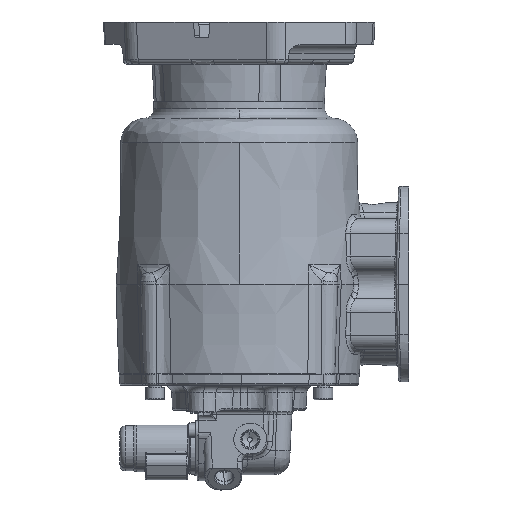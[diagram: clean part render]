
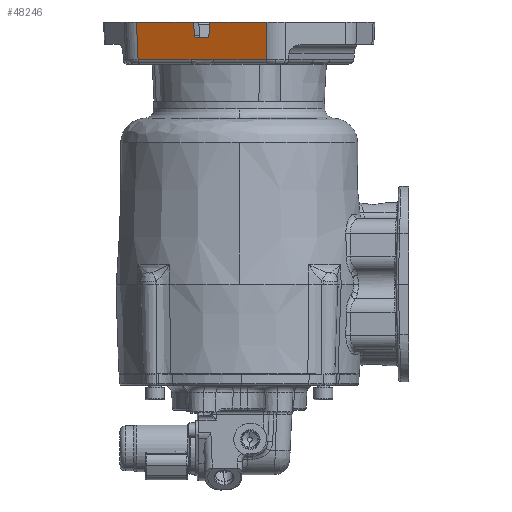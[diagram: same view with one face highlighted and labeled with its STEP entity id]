
A CAD part, left-side view. The second image highlights one B-rep face of the part: STEP entity #48246.
In plain terms, the highlighted planar face has unit normal (-0.913, 0.404, -0.052) as drawn and (-0.999, 0, -0.052) by its records, which use the part's own axes.
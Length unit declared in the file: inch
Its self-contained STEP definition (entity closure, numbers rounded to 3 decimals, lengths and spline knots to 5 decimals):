
#184 = LINE ( 'NONE', #104097, #142238 ) ;
#1432 = ORIENTED_EDGE ( 'NONE', *, *, #33499, .F. ) ;
#2293 = EDGE_CURVE ( 'NONE', #66872, #52426, #93080, .T. ) ;
#5140 = EDGE_CURVE ( 'NONE', #67552, #62731, #53598, .T. ) ;
#7646 = DIRECTION ( 'NONE',  ( 0.052, -0.087, -0.995 ) ) ;
#7977 = CARTESIAN_POINT ( 'NONE',  ( -2.2757, 1.75285, -0.94078 ) ) ;
#8222 = EDGE_CURVE ( 'NONE', #52426, #105072, #130232, .T. ) ;
#8359 = CARTESIAN_POINT ( 'NONE',  ( -2.30691, 0.19479, -0.34523 ) ) ;
#11356 = VECTOR ( 'NONE', #37692, 39.37008 ) ;
#12837 = CARTESIAN_POINT ( 'NONE',  ( -2.30404, -0.16778, -0.4 ) ) ;
#13701 = CARTESIAN_POINT ( 'NONE',  ( -2.30404, 0.13502, -0.4 ) ) ;
#16234 = VECTOR ( 'NONE', #117819, 39.37008 ) ;
#16803 = ORIENTED_EDGE ( 'NONE', *, *, #77254, .F. ) ;
#17019 = DIRECTION ( 'NONE',  ( 0.052, -0.024, -0.998 ) ) ;
#17689 = EDGE_CURVE ( 'NONE', #140938, #65991, #49763, .T. ) ;
#19632 = LINE ( 'NONE', #77173, #42349 ) ;
#19688 = VECTOR ( 'NONE', #7646, 39.37008 ) ;
#21087 = CARTESIAN_POINT ( 'NONE',  ( -2.33319, 0.23867, 0.15634 ) ) ;
#28225 = LINE ( 'NONE', #73818, #64044 ) ;
#28406 = AXIS2_PLACEMENT_3D ( 'NONE', #141679, #105063, #83343 ) ;
#31538 = LINE ( 'NONE', #21087, #19688 ) ;
#32300 = DIRECTION ( 'NONE',  ( 0., -1., 0. ) ) ;
#33101 = ORIENTED_EDGE ( 'NONE', *, *, #66420, .T. ) ;
#33499 = EDGE_CURVE ( 'NONE', #65991, #96967, #19632, .T. ) ;
#36112 = CARTESIAN_POINT ( 'NONE',  ( -2.32476, 1.77524, -0.0045 ) ) ;
#37094 = CARTESIAN_POINT ( 'NONE',  ( -2.2757, 0.25634, -0.94078 ) ) ;
#37692 = DIRECTION ( 'NONE',  ( 0., -1., 0. ) ) ;
#38320 = CARTESIAN_POINT ( 'NONE',  ( -2.2757, -0.30761, -0.94078 ) ) ;
#39852 =( BOUNDED_CURVE ( )  B_SPLINE_CURVE ( 3, ( #101366, #146970, #114023, #90128 ),
 .UNSPECIFIED., .F., .F. ) 
 B_SPLINE_CURVE_WITH_KNOTS ( ( 4, 4 ),
 ( 3.14159, 4.62512 ),
 .UNSPECIFIED. ) 
 CURVE ( )  GEOMETRIC_REPRESENTATION_ITEM ( )  RATIONAL_B_SPLINE_CURVE ( ( 1., 0.825, 0.825, 1. ) ) 
 REPRESENTATION_ITEM ( '' )  );
#41491 = VERTEX_POINT ( 'NONE', #57246 ) ;
#42349 = VECTOR ( 'NONE', #32300, 39.37008 ) ;
#44381 = EDGE_LOOP ( 'NONE', ( #124987, #126689, #131167, #143305, #59131, #33101, #1432, #66853, #62359, #62796, #76706, #16803 ) ) ;
#45090 = EDGE_CURVE ( 'NONE', #67552, #66872, #28225, .T. ) ;
#47946 = CARTESIAN_POINT ( 'NONE',  ( -2.2757, -1.75013, -0.94078 ) ) ;
#48246 = ADVANCED_FACE ( 'NONE', ( #50427 ), #96056, .T. ) ;
#48314 = CARTESIAN_POINT ( 'NONE',  ( -2.2757, -0.25634, -0.94078 ) ) ;
#49428 = CARTESIAN_POINT ( 'NONE',  ( -2.30691, -0.19479, -0.34523 ) ) ;
#49763 = LINE ( 'NONE', #81936, #16234 ) ;
#50391 = CARTESIAN_POINT ( 'NONE',  ( -2.2757, -1.75013, -0.94078 ) ) ;
#50427 = FACE_OUTER_BOUND ( 'NONE', #44381, .T. ) ;
#52426 = VERTEX_POINT ( 'NONE', #140736 ) ;
#53598 = LINE ( 'NONE', #98468, #62839 ) ;
#57246 = CARTESIAN_POINT ( 'NONE',  ( -2.2757, -1.75285, -0.94078 ) ) ;
#58436 = CARTESIAN_POINT ( 'NONE',  ( -2.30404, -0.13502, -0.4 ) ) ;
#59131 = ORIENTED_EDGE ( 'NONE', *, *, #88011, .T. ) ;
#59153 = LINE ( 'NONE', #47946, #106147 ) ;
#60266 = CARTESIAN_POINT ( 'NONE',  ( -2.2757, 0.30761, -0.94078 ) ) ;
#61962 = LINE ( 'NONE', #116597, #136771 ) ;
#62359 = ORIENTED_EDGE ( 'NONE', *, *, #70953, .T. ) ;
#62731 = VERTEX_POINT ( 'NONE', #105753 ) ;
#62796 = ORIENTED_EDGE ( 'NONE', *, *, #117577, .F. ) ;
#62839 = VECTOR ( 'NONE', #99216, 39.37008 ) ;
#64044 = VECTOR ( 'NONE', #17019, 39.37008 ) ;
#65991 = VERTEX_POINT ( 'NONE', #100046 ) ;
#66420 = EDGE_CURVE ( 'NONE', #41491, #96967, #184, .T. ) ;
#66853 = ORIENTED_EDGE ( 'NONE', *, *, #17689, .F. ) ;
#66872 = VERTEX_POINT ( 'NONE', #7977 ) ;
#67552 = VERTEX_POINT ( 'NONE', #36112 ) ;
#68535 = VERTEX_POINT ( 'NONE', #13701 ) ;
#69277 = CARTESIAN_POINT ( 'NONE',  ( -2.27566, 0.20507, -0.9414 ) ) ;
#69632 = DIRECTION ( 'NONE',  ( 0., -1., 0. ) ) ;
#70760 = CARTESIAN_POINT ( 'NONE',  ( -2.27557, -0.00001, -0.94319 ) ) ;
#70953 = EDGE_CURVE ( 'NONE', #140938, #138512, #85821, .T. ) ;
#73165 = DIRECTION ( 'NONE',  ( 0., -1., 0. ) ) ;
#73818 = CARTESIAN_POINT ( 'NONE',  ( -2.32532, 1.7755, 0.00608 ) ) ;
#76706 = ORIENTED_EDGE ( 'NONE', *, *, #98900, .T. ) ;
#77173 = CARTESIAN_POINT ( 'NONE',  ( -2.32476, 2.03057, -0.0045 ) ) ;
#77254 = EDGE_CURVE ( 'NONE', #62731, #113783, #31538, .T. ) ;
#77800 = CARTESIAN_POINT ( 'NONE',  ( -2.30691, -0.19479, -0.34523 ) ) ;
#81936 = CARTESIAN_POINT ( 'NONE',  ( -2.31476, -0.20791, -0.19531 ) ) ;
#83343 = DIRECTION ( 'NONE',  ( -0.052, 0., 0.999 ) ) ;
#85821 =( BOUNDED_CURVE ( )  B_SPLINE_CURVE ( 3, ( #49428, #141393, #12837, #58436 ),
 .UNSPECIFIED., .F., .F. ) 
 B_SPLINE_CURVE_WITH_KNOTS ( ( 4, 4 ),
 ( 1.65806, 3.14159 ),
 .UNSPECIFIED. ) 
 CURVE ( )  GEOMETRIC_REPRESENTATION_ITEM ( )  RATIONAL_B_SPLINE_CURVE ( ( 1., 0.825, 0.825, 1. ) ) 
 REPRESENTATION_ITEM ( '' )  );
#88011 = EDGE_CURVE ( 'NONE', #105072, #41491, #59153, .T. ) ;
#90128 = CARTESIAN_POINT ( 'NONE',  ( -2.30691, 0.19479, -0.34523 ) ) ;
#91735 = CARTESIAN_POINT ( 'NONE',  ( -2.27566, -0.20508, -0.9414 ) ) ;
#92136 = DIRECTION ( 'NONE',  ( -0.052, -0.024, 0.998 ) ) ;
#93080 = LINE ( 'NONE', #50391, #11356 ) ;
#96056 = PLANE ( 'NONE',  #28406 ) ;
#96967 = VERTEX_POINT ( 'NONE', #102474 ) ;
#98468 = CARTESIAN_POINT ( 'NONE',  ( -2.32476, 2.03057, -0.0045 ) ) ;
#98900 = EDGE_CURVE ( 'NONE', #68535, #113783, #39852, .T. ) ;
#99216 = DIRECTION ( 'NONE',  ( 0., -1., 0. ) ) ;
#100046 = CARTESIAN_POINT ( 'NONE',  ( -2.32476, -0.2246, -0.0045 ) ) ;
#101366 = CARTESIAN_POINT ( 'NONE',  ( -2.30404, 0.13502, -0.4 ) ) ;
#102474 = CARTESIAN_POINT ( 'NONE',  ( -2.32476, -1.77524, -0.0045 ) ) ;
#104097 = CARTESIAN_POINT ( 'NONE',  ( -2.32025, -1.77318, -0.09073 ) ) ;
#105063 = DIRECTION ( 'NONE',  ( -0.999, 0., -0.052 ) ) ;
#105072 = VERTEX_POINT ( 'NONE', #38320 ) ;
#105753 = CARTESIAN_POINT ( 'NONE',  ( -2.32476, 0.2246, -0.0045 ) ) ;
#105900 = CARTESIAN_POINT ( 'NONE',  ( -2.27561, -0.10254, -0.94242 ) ) ;
#106147 = VECTOR ( 'NONE', #69632, 39.37008 ) ;
#107390 = CARTESIAN_POINT ( 'NONE',  ( -2.30404, -0.13502, -0.4 ) ) ;
#113783 = VERTEX_POINT ( 'NONE', #8359 ) ;
#114023 = CARTESIAN_POINT ( 'NONE',  ( -2.3052, 0.19194, -0.37787 ) ) ;
#115641 = CARTESIAN_POINT ( 'NONE',  ( -2.27561, 0.10253, -0.94242 ) ) ;
#116597 = CARTESIAN_POINT ( 'NONE',  ( -2.30404, 2.03057, -0.4 ) ) ;
#117577 = EDGE_CURVE ( 'NONE', #68535, #138512, #61962, .T. ) ;
#117819 = DIRECTION ( 'NONE',  ( -0.052, -0.087, 0.995 ) ) ;
#124987 = ORIENTED_EDGE ( 'NONE', *, *, #5140, .F. ) ;
#126689 = ORIENTED_EDGE ( 'NONE', *, *, #45090, .T. ) ;
#130232 = B_SPLINE_CURVE_WITH_KNOTS ( 'NONE', 3,
 ( #60266, #37094, #69277, #115641, #70760, #105900, #91735, #48314, #137353 ),
 .UNSPECIFIED., .F., .F.,
 ( 4, 2, 1, 2, 4 ),
 ( 0., 0.00391, 0.00781, 0.01172, 0.01563 ),
 .UNSPECIFIED. ) ;
#131167 = ORIENTED_EDGE ( 'NONE', *, *, #2293, .T. ) ;
#136771 = VECTOR ( 'NONE', #73165, 39.37008 ) ;
#137353 = CARTESIAN_POINT ( 'NONE',  ( -2.2757, -0.30761, -0.94078 ) ) ;
#138512 = VERTEX_POINT ( 'NONE', #107390 ) ;
#140736 = CARTESIAN_POINT ( 'NONE',  ( -2.2757, 0.30761, -0.94078 ) ) ;
#140938 = VERTEX_POINT ( 'NONE', #77800 ) ;
#141393 = CARTESIAN_POINT ( 'NONE',  ( -2.3052, -0.19194, -0.37787 ) ) ;
#141679 = CARTESIAN_POINT ( 'NONE',  ( -2.325, 2.03057, 0. ) ) ;
#142238 = VECTOR ( 'NONE', #92136, 39.37008 ) ;
#143305 = ORIENTED_EDGE ( 'NONE', *, *, #8222, .T. ) ;
#146970 = CARTESIAN_POINT ( 'NONE',  ( -2.30404, 0.16778, -0.4 ) ) ;
